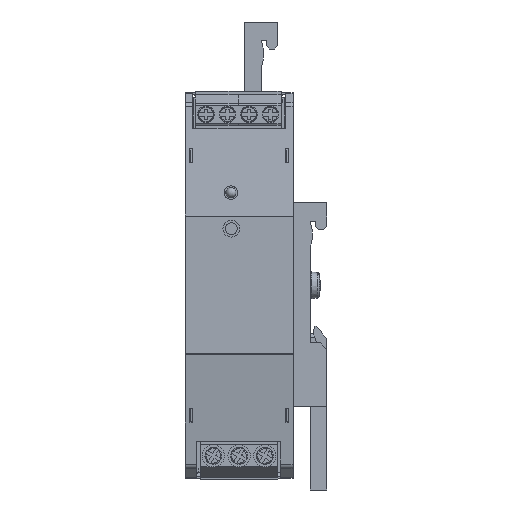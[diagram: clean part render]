
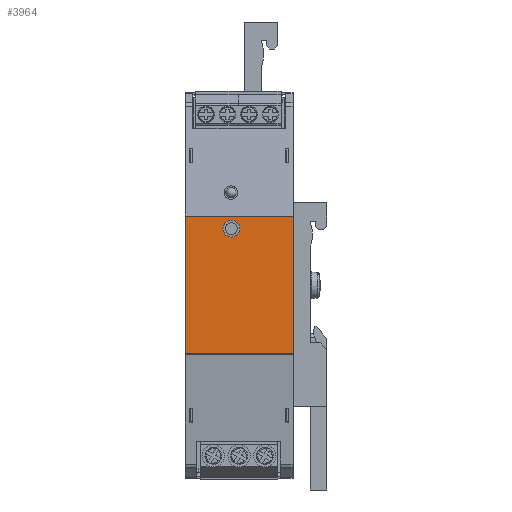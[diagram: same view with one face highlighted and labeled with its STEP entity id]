
A CAD part, front view. The second image highlights one B-rep face of the part: STEP entity #3964.
In plain terms, the highlighted planar face has unit normal (0, -1, 0).
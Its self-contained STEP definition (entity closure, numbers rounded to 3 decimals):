
#3964 = ADVANCED_FACE( '', ( #9077, #9078 ), #9079, .T. );
#9077 = FACE_OUTER_BOUND( '', #17388, .T. );
#9078 = FACE_BOUND( '', #17389, .T. );
#9079 = PLANE( '', #17390 );
#17388 = EDGE_LOOP( '', ( #31967, #31968, #31969, #31970 ) );
#17389 = EDGE_LOOP( '', ( #31971 ) );
#17390 = AXIS2_PLACEMENT_3D( '', #31972, #31973, #31974 );
#31967 = ORIENTED_EDGE( '', *, *, #42796, .F. );
#31968 = ORIENTED_EDGE( '', *, *, #41744, .F. );
#31969 = ORIENTED_EDGE( '', *, *, #45240, .T. );
#31970 = ORIENTED_EDGE( '', *, *, #45627, .T. );
#31971 = ORIENTED_EDGE( '', *, *, #44932, .F. );
#31972 = CARTESIAN_POINT( '', ( -22.5, -35.105, -20.39 ) );
#31973 = DIRECTION( '', ( 0., -1., 0. ) );
#31974 = DIRECTION( '', ( -1., 0., 0. ) );
#41744 = EDGE_CURVE( '', #50480, #50476, #50482, .T. );
#42796 = EDGE_CURVE( '', #50476, #52294, #52295, .T. );
#44932 = EDGE_CURVE( '', #55656, #55656, #55657, .T. );
#45240 = EDGE_CURVE( '', #50480, #56102, #56104, .T. );
#45627 = EDGE_CURVE( '', #56102, #52294, #56640, .T. );
#50476 = VERTEX_POINT( '', #62472 );
#50480 = VERTEX_POINT( '', #62477 );
#50482 = LINE( '', #62479, #62480 );
#52294 = VERTEX_POINT( '', #65184 );
#52295 = LINE( '', #65185, #65186 );
#55656 = VERTEX_POINT( '', #70673 );
#55657 = CIRCLE( '', #70674, 2.5 );
#56102 = VERTEX_POINT( '', #71373 );
#56104 = LINE( '', #71375, #71376 );
#56640 = LINE( '', #72282, #72283 );
#62472 = CARTESIAN_POINT( '', ( 9.5, -35.105, 20.322 ) );
#62477 = CARTESIAN_POINT( '', ( -22.5, -35.105, 20.322 ) );
#62479 = CARTESIAN_POINT( '', ( -22.5, -35.105, 20.322 ) );
#62480 = VECTOR( '', #77344, 1000. );
#65184 = CARTESIAN_POINT( '', ( 9.5, -35.105, -20.322 ) );
#65185 = CARTESIAN_POINT( '', ( 9.5, -35.105, -20.39 ) );
#65186 = VECTOR( '', #78405, 1000. );
#70673 = CARTESIAN_POINT( '', ( -6.3, -35.105, 16.816 ) );
#70674 = AXIS2_PLACEMENT_3D( '', #80291, #80292, #80293 );
#71373 = CARTESIAN_POINT( '', ( -22.5, -35.105, -20.322 ) );
#71375 = CARTESIAN_POINT( '', ( -22.5, -35.105, -20.39 ) );
#71376 = VECTOR( '', #80549, 1000. );
#72282 = CARTESIAN_POINT( '', ( -22.5, -35.105, -20.322 ) );
#72283 = VECTOR( '', #80860, 1000. );
#77344 = DIRECTION( '', ( 1., 0., 0. ) );
#78405 = DIRECTION( '', ( 0., 0., -1. ) );
#80291 = CARTESIAN_POINT( '', ( -8.8, -35.105, 16.816 ) );
#80292 = DIRECTION( '', ( 0., -1., 0. ) );
#80293 = DIRECTION( '', ( 1., 0., 0. ) );
#80549 = DIRECTION( '', ( 0., 0., -1. ) );
#80860 = DIRECTION( '', ( 1., 0., 0. ) );
